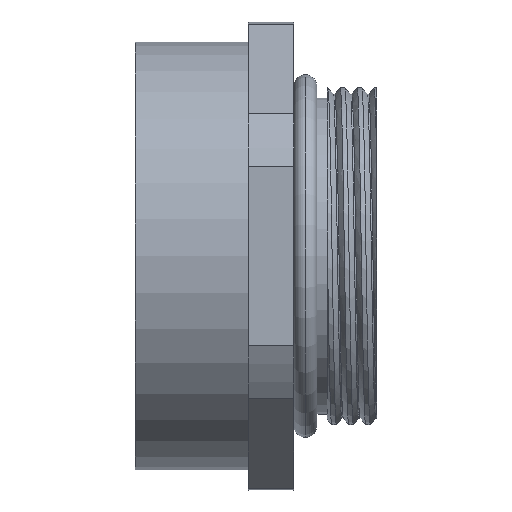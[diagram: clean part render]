
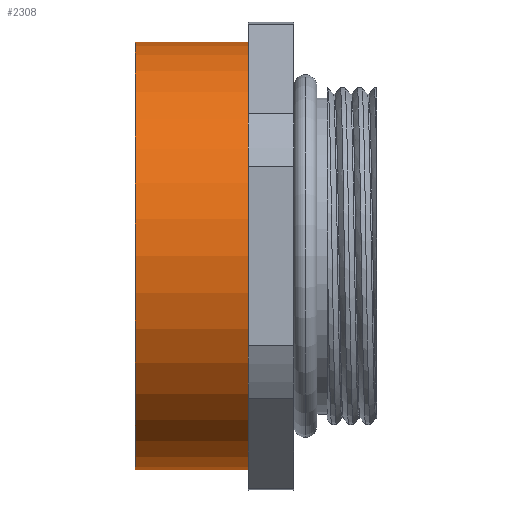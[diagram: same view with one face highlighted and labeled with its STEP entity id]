
A CAD part, front view. The second image highlights one B-rep face of the part: STEP entity #2308.
In plain terms, the highlighted cylindrical face has radius 17.78 mm (diameter 35.56 mm), a partial arc.
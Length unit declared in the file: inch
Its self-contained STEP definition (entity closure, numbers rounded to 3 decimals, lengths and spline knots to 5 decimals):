
#67 = DIRECTION ( 'NONE',  ( 0., 0., 1. ) ) ;
#68 = DIRECTION ( 'NONE',  ( -1., 0., 0. ) ) ;
#69 = CARTESIAN_POINT ( 'NONE',  ( -0.11095, 0., 0. ) ) ;
#70 = AXIS2_PLACEMENT_3D ( 'NONE', #69, #68, #67 ) ;
#71 = CYLINDRICAL_SURFACE ( 'NONE', #70, 0.7 ) ;
#72 = FACE_OUTER_BOUND ( 'NONE', #2309, .T. ) ;
#176 = DIRECTION ( 'NONE',  ( 0., 0., 1. ) ) ;
#177 = DIRECTION ( 'NONE',  ( -1., 0., 0. ) ) ;
#178 = CARTESIAN_POINT ( 'NONE',  ( 0.369, 0., 0. ) ) ;
#179 = AXIS2_PLACEMENT_3D ( 'NONE', #178, #177, #176 ) ;
#180 = CIRCLE ( 'NONE', #179, 0.7 ) ;
#831 = DIRECTION ( 'NONE',  ( 0., 0., 1. ) ) ;
#832 = DIRECTION ( 'NONE',  ( -1., 0., 0. ) ) ;
#833 = AXIS2_PLACEMENT_3D ( 'NONE', #863, #832, #831 ) ;
#834 = CIRCLE ( 'NONE', #833, 0.7 ) ;
#863 = CARTESIAN_POINT ( 'NONE',  ( 0., 0., 0. ) ) ;
#1896 = VERTEX_POINT ( 'NONE', #2500 ) ;
#1907 = VERTEX_POINT ( 'NONE', #2632 ) ;
#1909 = EDGE_CURVE ( 'NONE', #1907, #1910, #2511, .T. ) ;
#1910 = VERTEX_POINT ( 'NONE', #2507 ) ;
#1960 = EDGE_CURVE ( 'NONE', #1896, #1965, #2786, .T. ) ;
#1965 = VERTEX_POINT ( 'NONE', #2744 ) ;
#2221 = ORIENTED_EDGE ( 'NONE', *, *, #2332, .T. ) ;
#2262 = ORIENTED_EDGE ( 'NONE', *, *, #2263, .F. ) ;
#2263 = EDGE_CURVE ( 'NONE', #1910, #1965, #834, .T. ) ;
#2265 = ORIENTED_EDGE ( 'NONE', *, *, #1960, .T. ) ;
#2308 = ADVANCED_FACE ( 'NONE', ( #72 ), #71, .T. ) ;
#2309 = EDGE_LOOP ( 'NONE', ( #2310, #2221, #2265, #2262 ) ) ;
#2310 = ORIENTED_EDGE ( 'NONE', *, *, #1909, .F. ) ;
#2332 = EDGE_CURVE ( 'NONE', #1907, #1896, #180, .T. ) ;
#2500 = CARTESIAN_POINT ( 'NONE',  ( 0.369, 0., 0.7 ) ) ;
#2507 = CARTESIAN_POINT ( 'NONE',  ( 0., 0., -0.7 ) ) ;
#2508 = DIRECTION ( 'NONE',  ( -1., 0., 0. ) ) ;
#2509 = VECTOR ( 'NONE', #2508, 39.37008 ) ;
#2510 = CARTESIAN_POINT ( 'NONE',  ( -0.11095, 0., -0.7 ) ) ;
#2511 = LINE ( 'NONE', #2510, #2509 ) ;
#2632 = CARTESIAN_POINT ( 'NONE',  ( 0.369, 0., -0.7 ) ) ;
#2744 = CARTESIAN_POINT ( 'NONE',  ( 0., 0., 0.7 ) ) ;
#2783 = DIRECTION ( 'NONE',  ( -1., 0., 0. ) ) ;
#2784 = VECTOR ( 'NONE', #2783, 39.37008 ) ;
#2785 = CARTESIAN_POINT ( 'NONE',  ( -0.11095, 0., 0.7 ) ) ;
#2786 = LINE ( 'NONE', #2785, #2784 ) ;
